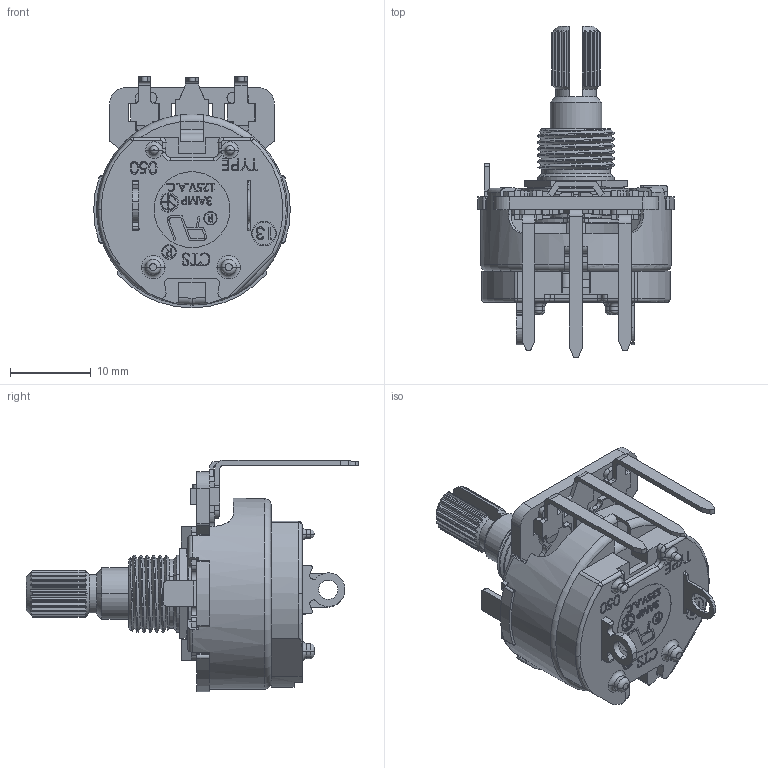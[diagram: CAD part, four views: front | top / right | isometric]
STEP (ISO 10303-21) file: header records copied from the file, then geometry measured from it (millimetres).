
FILE_DESCRIPTION (( 'STEP AP214' ), '1' );
FILE_NAME ('450V224K104A1B1.STEP', '2019-05-27T01:24:56', ( '' ), ( '' ), 'SwSTEP 2.0', 'SolidWorks 2019', '' );
FILE_SCHEMA (( 'AUTOMOTIVE_DESIGN' ));
Length unit declared in the file: millimetre
Products named in the file (13): V450VAEDF-1; 45C-2T-Left lug; 450 element; 450V224K104A1B1; 13M450S8749T; P45Q_Flat Bottom_45Q54 withFenderTradeMark_NewDetentSetting_07102012; 450D-5 for V450AEDF-1; 050-01-018-34-01; 2-450B-4; 050-18-005-10-21; 050-18-006-06-12; 450F for V450AEDF-1; 450-01-T08-30-01G(simple)
Assembly tree (13 placements, depth 3):
  450V224K104A1B1
    P45Q_Flat Bottom_45Q54 withFenderTradeMark_NewDetentSetting_07102012
    050-01-018-34-01
    050-18-006-06-12
    050-18-005-10-21
    V450VAEDF-1
      450-01-T08-30-01G(simple)
      450 element
      450F for V450AEDF-1  x2
      450D-5 for V450AEDF-1
    45C-2T-Left lug
    2-450B-4
    13M450S8749T
Bounding box: 24.33 x 41.08 x 28.7 mm (x, y, z)
Volume: 3741.7 mm3; surface area: 8355.1 mm2
Topology: 12 solids, 12 shells, 1461 faces, 4018 edges, 2638 vertices
Faces by surface type: plane 791, cylinder 365, bspline 225, torus 49, cone 31
Entity records: 56268 total; most frequent: CARTESIAN_POINT 21077, ORIENTED_EDGE 7744, DIRECTION 6430, EDGE_CURVE 3872, VERTEX_POINT 2545, LINE 2344, VECTOR 2344, AXIS2_PLACEMENT_3D 2043
